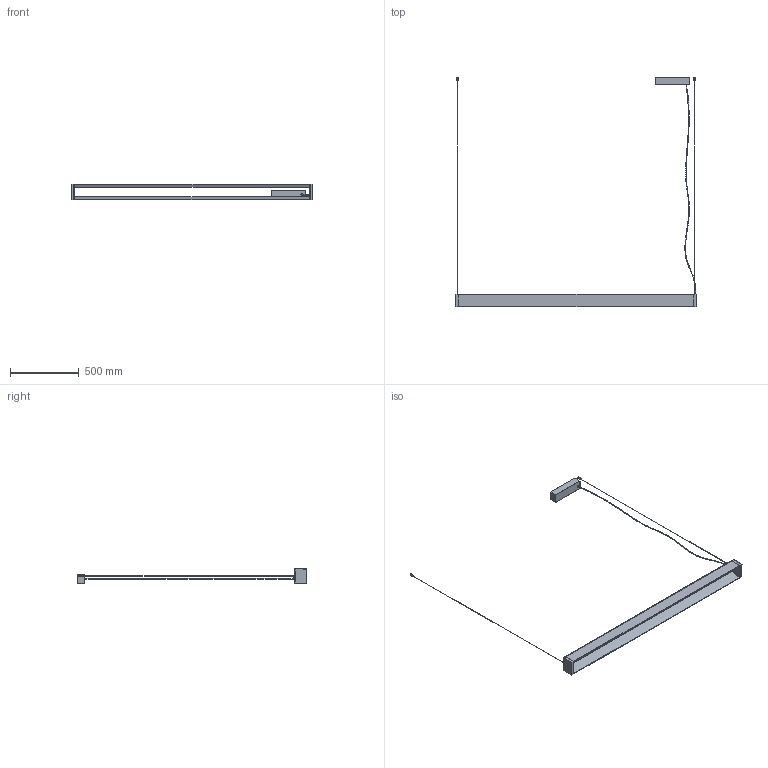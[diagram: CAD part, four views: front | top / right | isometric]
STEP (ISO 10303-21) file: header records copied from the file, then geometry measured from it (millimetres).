
FILE_DESCRIPTION (( 'STEP AP214' ), '1' );
FILE_NAME ('3D_TRU_UPUP_H.STEP', '2018-04-09T15:35:01', ( 'Utente' ), ( '' ), 'SwSTEP 2.0', 'SolidWorks 2016', '' );
FILE_SCHEMA (( 'AUTOMOTIVE_DESIGN' ));
Length unit declared in the file: millimetre
Products named in the file (5): Group6^3D_TRU_UPUP_H; Group3^3D_TRU_UPUP_H; Group2^3D_TRU_UPUP_H; Group1^3D_TRU_UPUP_H; 3D_TRU_UPUP_H
Assembly tree (4 placements, depth 2):
  3D_TRU_UPUP_H
    Group1^3D_TRU_UPUP_H
    Group2^3D_TRU_UPUP_H
    Group3^3D_TRU_UPUP_H
    Group6^3D_TRU_UPUP_H
Bounding box: 1755.66 x 1673.7 x 112 mm (x, y, z)
Volume: 4819593.8 mm3; surface area: 1021428.4 mm2
Topology: 6 solids, 6 shells, 440 faces, 1206 edges, 788 vertices
Faces by surface type: plane 278, cylinder 106, bspline 38, torus 10, sphere 8
Entity records: 23160 total; most frequent: CARTESIAN_POINT 9971, ORIENTED_EDGE 2396, DIRECTION 2102, EDGE_CURVE 1198, LINE 832, VECTOR 832, VERTEX_POINT 788, AXIS2_PLACEMENT_3D 635
